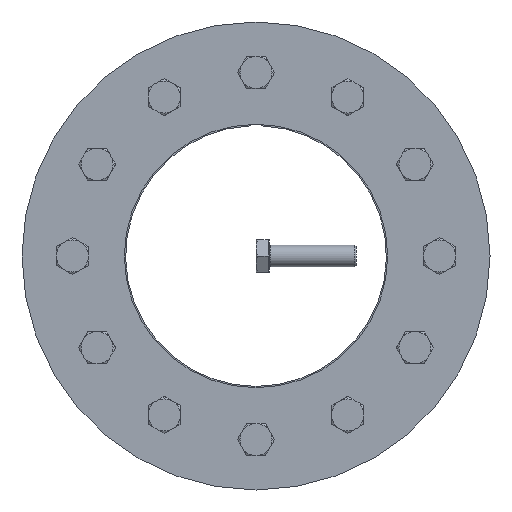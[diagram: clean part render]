
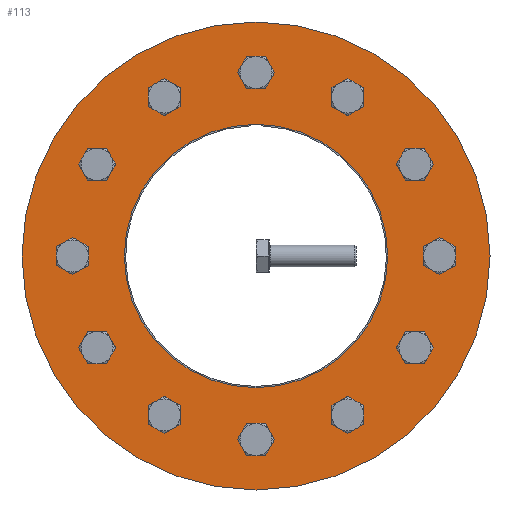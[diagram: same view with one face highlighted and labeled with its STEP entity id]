
A CAD part, front view. The second image highlights one B-rep face of the part: STEP entity #113.
In plain terms, the highlighted planar face has unit normal (0, -1, 0).
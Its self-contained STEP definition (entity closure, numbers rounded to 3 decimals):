
#113 = ADVANCED_FACE( '', ( #263, #264, #265, #266, #267, #268, #269, #270, #271, #272, #273, #274, #275, #276 ), #277, .F. );
#263 = FACE_BOUND( '', #524, .T. );
#264 = FACE_BOUND( '', #525, .T. );
#265 = FACE_BOUND( '', #526, .T. );
#266 = FACE_BOUND( '', #527, .T. );
#267 = FACE_BOUND( '', #528, .T. );
#268 = FACE_BOUND( '', #529, .T. );
#269 = FACE_BOUND( '', #530, .T. );
#270 = FACE_OUTER_BOUND( '', #531, .T. );
#271 = FACE_BOUND( '', #532, .T. );
#272 = FACE_BOUND( '', #533, .T. );
#273 = FACE_BOUND( '', #534, .T. );
#274 = FACE_BOUND( '', #535, .T. );
#275 = FACE_BOUND( '', #536, .T. );
#276 = FACE_BOUND( '', #537, .T. );
#277 = PLANE( '', #538 );
#524 = EDGE_LOOP( '', ( #853 ) );
#525 = EDGE_LOOP( '', ( #854 ) );
#526 = EDGE_LOOP( '', ( #855 ) );
#527 = EDGE_LOOP( '', ( #856 ) );
#528 = EDGE_LOOP( '', ( #857 ) );
#529 = EDGE_LOOP( '', ( #858 ) );
#530 = EDGE_LOOP( '', ( #859 ) );
#531 = EDGE_LOOP( '', ( #860 ) );
#532 = EDGE_LOOP( '', ( #861 ) );
#533 = EDGE_LOOP( '', ( #862 ) );
#534 = EDGE_LOOP( '', ( #863 ) );
#535 = EDGE_LOOP( '', ( #864 ) );
#536 = EDGE_LOOP( '', ( #865 ) );
#537 = EDGE_LOOP( '', ( #866 ) );
#538 = AXIS2_PLACEMENT_3D( '', #867, #868, #869 );
#853 = ORIENTED_EDGE( '', *, *, #1249, .T. );
#854 = ORIENTED_EDGE( '', *, *, #1250, .T. );
#855 = ORIENTED_EDGE( '', *, *, #1251, .T. );
#856 = ORIENTED_EDGE( '', *, *, #1252, .T. );
#857 = ORIENTED_EDGE( '', *, *, #1210, .T. );
#858 = ORIENTED_EDGE( '', *, *, #1244, .T. );
#859 = ORIENTED_EDGE( '', *, *, #1215, .F. );
#860 = ORIENTED_EDGE( '', *, *, #1253, .T. );
#861 = ORIENTED_EDGE( '', *, *, #1237, .T. );
#862 = ORIENTED_EDGE( '', *, *, #1254, .T. );
#863 = ORIENTED_EDGE( '', *, *, #1255, .T. );
#864 = ORIENTED_EDGE( '', *, *, #1256, .T. );
#865 = ORIENTED_EDGE( '', *, *, #1204, .T. );
#866 = ORIENTED_EDGE( '', *, *, #1257, .T. );
#867 = CARTESIAN_POINT( '', ( 0., -43., 175. ) );
#868 = DIRECTION( '', ( 0., 1., 0. ) );
#869 = DIRECTION( '', ( 0., 0., 1. ) );
#1204 = EDGE_CURVE( '', #1404, #1404, #1405, .T. );
#1210 = EDGE_CURVE( '', #1414, #1414, #1415, .T. );
#1215 = EDGE_CURVE( '', #1423, #1423, #1424, .T. );
#1237 = EDGE_CURVE( '', #1462, #1462, #1463, .T. );
#1244 = EDGE_CURVE( '', #1473, #1473, #1474, .T. );
#1249 = EDGE_CURVE( '', #1481, #1481, #1482, .T. );
#1250 = EDGE_CURVE( '', #1483, #1483, #1484, .T. );
#1251 = EDGE_CURVE( '', #1485, #1485, #1486, .T. );
#1252 = EDGE_CURVE( '', #1487, #1487, #1488, .T. );
#1253 = EDGE_CURVE( '', #1489, #1489, #1490, .T. );
#1254 = EDGE_CURVE( '', #1491, #1491, #1492, .T. );
#1255 = EDGE_CURVE( '', #1493, #1493, #1494, .T. );
#1256 = EDGE_CURVE( '', #1495, #1495, #1496, .T. );
#1257 = EDGE_CURVE( '', #1497, #1497, #1498, .T. );
#1404 = VERTEX_POINT( '', #1795 );
#1405 = CIRCLE( '', #1796, 8. );
#1414 = VERTEX_POINT( '', #1805 );
#1415 = CIRCLE( '', #1806, 8. );
#1423 = VERTEX_POINT( '', #1814 );
#1424 = CIRCLE( '', #1815, 98.5 );
#1462 = VERTEX_POINT( '', #1870 );
#1463 = CIRCLE( '', #1871, 8. );
#1473 = VERTEX_POINT( '', #1884 );
#1474 = CIRCLE( '', #1885, 8. );
#1481 = VERTEX_POINT( '', #1892 );
#1482 = CIRCLE( '', #1893, 8. );
#1483 = VERTEX_POINT( '', #1894 );
#1484 = CIRCLE( '', #1895, 8. );
#1485 = VERTEX_POINT( '', #1896 );
#1486 = CIRCLE( '', #1897, 8. );
#1487 = VERTEX_POINT( '', #1898 );
#1488 = CIRCLE( '', #1899, 8. );
#1489 = VERTEX_POINT( '', #1900 );
#1490 = CIRCLE( '', #1901, 175. );
#1491 = VERTEX_POINT( '', #1902 );
#1492 = CIRCLE( '', #1903, 8. );
#1493 = VERTEX_POINT( '', #1904 );
#1494 = CIRCLE( '', #1905, 8. );
#1495 = VERTEX_POINT( '', #1906 );
#1496 = CIRCLE( '', #1907, 8. );
#1497 = VERTEX_POINT( '', #1908 );
#1498 = CIRCLE( '', #1909, 8. );
#1795 = CARTESIAN_POINT( '', ( -137.25, -43., 8. ) );
#1796 = AXIS2_PLACEMENT_3D( '', #2101, #2102, #2103 );
#1805 = CARTESIAN_POINT( '', ( 122.862, -43., 61.697 ) );
#1806 = AXIS2_PLACEMENT_3D( '', #2113, #2114, #2115 );
#1814 = CARTESIAN_POINT( '', ( 0., -43., -98.5 ) );
#1815 = AXIS2_PLACEMENT_3D( '', #2125, #2126, #2127 );
#1870 = CARTESIAN_POINT( '', ( 75.553, -43., 114.862 ) );
#1871 = AXIS2_PLACEMENT_3D( '', #2151, #2152, #2153 );
#1884 = CARTESIAN_POINT( '', ( 8., -43., 137.25 ) );
#1885 = AXIS2_PLACEMENT_3D( '', #2163, #2164, #2165 );
#1892 = CARTESIAN_POINT( '', ( -114.862, -43., 75.553 ) );
#1893 = AXIS2_PLACEMENT_3D( '', #2172, #2173, #2174 );
#1894 = CARTESIAN_POINT( '', ( -122.862, -43., -61.697 ) );
#1895 = AXIS2_PLACEMENT_3D( '', #2175, #2176, #2177 );
#1896 = CARTESIAN_POINT( '', ( -8., -43., -137.25 ) );
#1897 = AXIS2_PLACEMENT_3D( '', #2178, #2179, #2180 );
#1898 = CARTESIAN_POINT( '', ( 114.862, -43., -75.553 ) );
#1899 = AXIS2_PLACEMENT_3D( '', #2181, #2182, #2183 );
#1900 = CARTESIAN_POINT( '', ( 0., -43., -175. ) );
#1901 = AXIS2_PLACEMENT_3D( '', #2184, #2185, #2186 );
#1902 = CARTESIAN_POINT( '', ( 137.25, -43., -8. ) );
#1903 = AXIS2_PLACEMENT_3D( '', #2187, #2188, #2189 );
#1904 = CARTESIAN_POINT( '', ( 61.697, -43., -122.862 ) );
#1905 = AXIS2_PLACEMENT_3D( '', #2190, #2191, #2192 );
#1906 = CARTESIAN_POINT( '', ( -75.553, -43., -114.862 ) );
#1907 = AXIS2_PLACEMENT_3D( '', #2193, #2194, #2195 );
#1908 = CARTESIAN_POINT( '', ( -61.697, -43., 122.862 ) );
#1909 = AXIS2_PLACEMENT_3D( '', #2196, #2197, #2198 );
#2101 = CARTESIAN_POINT( '', ( -137.25, -43., 0. ) );
#2102 = DIRECTION( '', ( 0., 1., 0. ) );
#2103 = DIRECTION( '', ( 0., 0., 1. ) );
#2113 = CARTESIAN_POINT( '', ( 118.862, -43., 68.625 ) );
#2114 = DIRECTION( '', ( 0., 1., 0. ) );
#2115 = DIRECTION( '', ( 0.5, 0., -0.866 ) );
#2125 = CARTESIAN_POINT( '', ( 0., -43., 0. ) );
#2126 = DIRECTION( '', ( 0., -1., 0. ) );
#2127 = DIRECTION( '', ( 0., 0., -1. ) );
#2151 = CARTESIAN_POINT( '', ( 68.625, -43., 118.862 ) );
#2152 = DIRECTION( '', ( 0., 1., 0. ) );
#2153 = DIRECTION( '', ( 0.866, 0., -0.5 ) );
#2163 = CARTESIAN_POINT( '', ( 0., -43., 137.25 ) );
#2164 = DIRECTION( '', ( 0., 1., 0. ) );
#2165 = DIRECTION( '', ( 1., 0., 0. ) );
#2172 = CARTESIAN_POINT( '', ( -118.862, -43., 68.625 ) );
#2173 = DIRECTION( '', ( 0., 1., 0. ) );
#2174 = DIRECTION( '', ( 0.5, 0., 0.866 ) );
#2175 = CARTESIAN_POINT( '', ( -118.862, -43., -68.625 ) );
#2176 = DIRECTION( '', ( 0., 1., 0. ) );
#2177 = DIRECTION( '', ( -0.5, 0., 0.866 ) );
#2178 = CARTESIAN_POINT( '', ( 0., -43., -137.25 ) );
#2179 = DIRECTION( '', ( 0., 1., 0. ) );
#2180 = DIRECTION( '', ( -1., 0., 0. ) );
#2181 = CARTESIAN_POINT( '', ( 118.862, -43., -68.625 ) );
#2182 = DIRECTION( '', ( 0., 1., 0. ) );
#2183 = DIRECTION( '', ( -0.5, 0., -0.866 ) );
#2184 = CARTESIAN_POINT( '', ( 0., -43., 0. ) );
#2185 = DIRECTION( '', ( 0., -1., 0. ) );
#2186 = DIRECTION( '', ( 0., 0., -1. ) );
#2187 = CARTESIAN_POINT( '', ( 137.25, -43., 0. ) );
#2188 = DIRECTION( '', ( 0., 1., 0. ) );
#2189 = DIRECTION( '', ( 0., 0., -1. ) );
#2190 = CARTESIAN_POINT( '', ( 68.625, -43., -118.862 ) );
#2191 = DIRECTION( '', ( 0., 1., 0. ) );
#2192 = DIRECTION( '', ( -0.866, 0., -0.5 ) );
#2193 = CARTESIAN_POINT( '', ( -68.625, -43., -118.862 ) );
#2194 = DIRECTION( '', ( 0., 1., 0. ) );
#2195 = DIRECTION( '', ( -0.866, 0., 0.5 ) );
#2196 = CARTESIAN_POINT( '', ( -68.625, -43., 118.862 ) );
#2197 = DIRECTION( '', ( 0., 1., 0. ) );
#2198 = DIRECTION( '', ( 0.866, 0., 0.5 ) );
